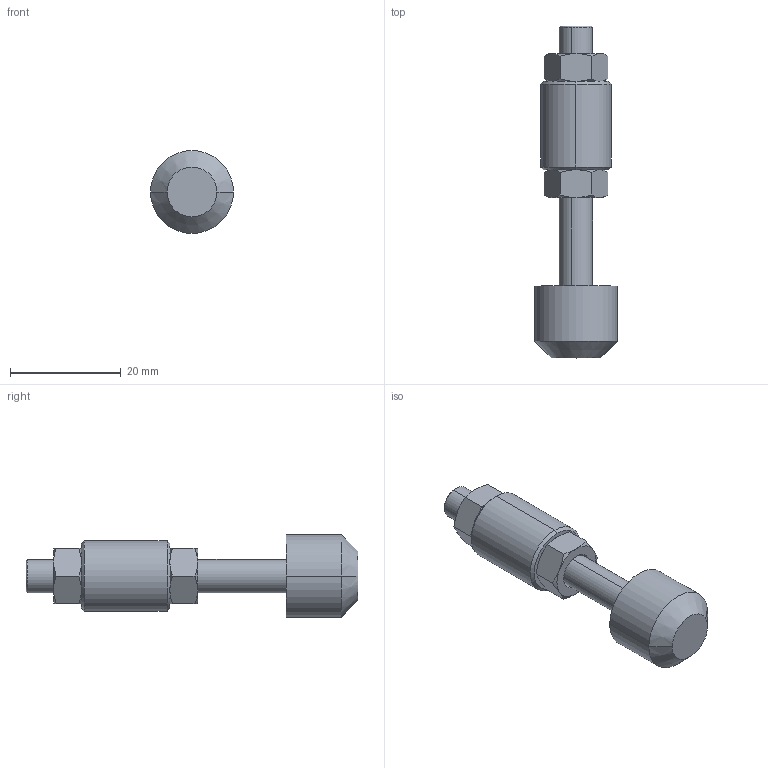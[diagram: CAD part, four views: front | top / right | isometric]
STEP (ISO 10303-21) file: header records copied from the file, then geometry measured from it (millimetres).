
FILE_DESCRIPTION (( 'STEP AP203' ), '1' );
FILE_NAME ('BRB-M6.STEP', '2011-05-23T16:17:31', ( 'Usuario' ), ( '' ), 'SwSTEP 2.0', 'SolidWorks 2011', '' );
FILE_SCHEMA (( 'CONFIG_CONTROL_DESIGN' ));
Length unit declared in the file: millimetre
Products named in the file (5): BRB-M6; 20.20008; 11.50001; 20.20013; 20.20009
Assembly tree (5 placements, depth 2):
  BRB-M6
    20.20009
    11.50001  x2
    20.20013
    20.20008
Bounding box: 15 x 60 x 15 mm (x, y, z)
Volume: 5489.9 mm3; surface area: 3843.4 mm2
Topology: 5 solids, 5 shells, 84 faces, 174 edges, 99 vertices
Faces by surface type: cone 48, plane 22, cylinder 14
Entity records: 2121 total; most frequent: CARTESIAN_POINT 369, DIRECTION 278, ORIENTED_EDGE 232, AXIS2_PLACEMENT_3D 120, EDGE_CURVE 116, VERTEX_POINT 67, EDGE_LOOP 63, ADVANCED_FACE 58
